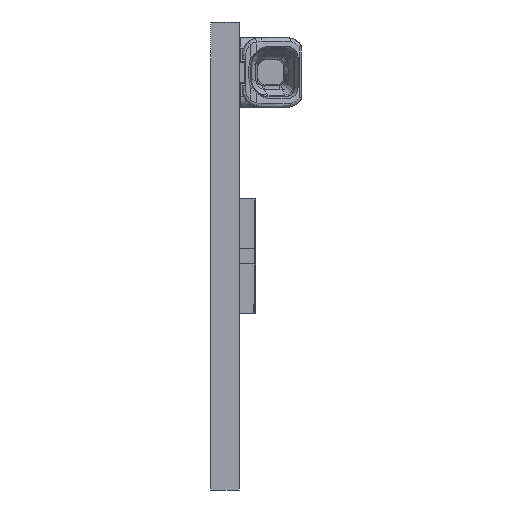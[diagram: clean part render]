
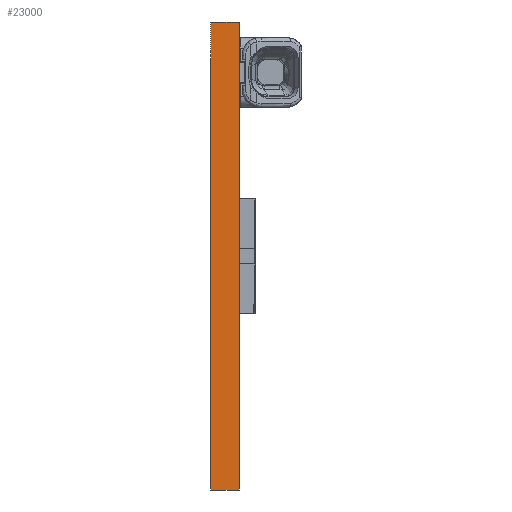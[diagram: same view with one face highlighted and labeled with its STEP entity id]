
A CAD part, left-side view. The second image highlights one B-rep face of the part: STEP entity #23000.
In plain terms, the highlighted planar face has unit normal (-1, 0, 0).
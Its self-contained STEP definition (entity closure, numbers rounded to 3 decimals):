
#1193=ORIENTED_EDGE('',*,*,#6015,.F.);
#1194=ORIENTED_EDGE('',*,*,#6081,.F.);
#1195=ORIENTED_EDGE('',*,*,#6053,.T.);
#1196=ORIENTED_EDGE('',*,*,#6080,.T.);
#6015=EDGE_CURVE('',#8471,#8472,#10043,.T.);
#6053=EDGE_CURVE('',#8510,#8509,#10063,.T.);
#6080=EDGE_CURVE('',#8509,#8472,#10084,.T.);
#6081=EDGE_CURVE('',#8510,#8471,#10085,.T.);
#8471=VERTEX_POINT('',#29395);
#8472=VERTEX_POINT('',#29397);
#8509=VERTEX_POINT('',#29477);
#8510=VERTEX_POINT('',#29479);
#10043=LINE('',#29396,#11865);
#10063=LINE('',#29478,#11885);
#10084=LINE('',#29531,#11906);
#10085=LINE('',#29533,#11907);
#11865=VECTOR('',#25219,1000.);
#11885=VECTOR('',#25287,1000.);
#11906=VECTOR('',#25330,1000.);
#11907=VECTOR('',#25333,1000.);
#13606=EDGE_LOOP('',(#1193,#1194,#1195,#1196));
#14654=FACE_BOUND('',#13606,.T.);
#15648=PLANE('',#23994);
#23000=ADVANCED_FACE('',(#14654),#15648,.T.);
#23994=AXIS2_PLACEMENT_3D('',#29532,#25331,#25332);
#25219=DIRECTION('',(0.,0.,-1.));
#25287=DIRECTION('',(0.,0.,-1.));
#25330=DIRECTION('',(0.,-1.,0.));
#25331=DIRECTION('',(-1.,0.,0.));
#25332=DIRECTION('',(0.,0.,1.));
#25333=DIRECTION('',(0.,-1.,0.));
#29395=CARTESIAN_POINT('',(-139.5,0.,13.));
#29396=CARTESIAN_POINT('',(-139.5,0.,13.));
#29397=CARTESIAN_POINT('',(-139.5,0.,-13.));
#29477=CARTESIAN_POINT('',(-139.5,1.6,-13.));
#29478=CARTESIAN_POINT('',(-139.5,1.6,13.));
#29479=CARTESIAN_POINT('',(-139.5,1.6,13.));
#29531=CARTESIAN_POINT('',(-139.5,1.6,-13.));
#29532=CARTESIAN_POINT('',(-139.5,1.6,13.));
#29533=CARTESIAN_POINT('',(-139.5,1.6,13.));
